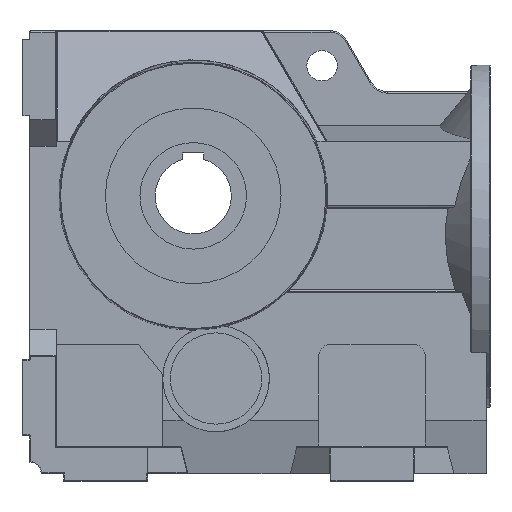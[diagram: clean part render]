
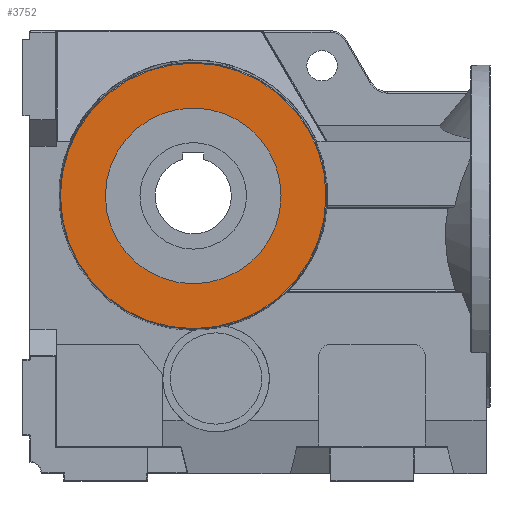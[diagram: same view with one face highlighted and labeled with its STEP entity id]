
A CAD part, front view. The second image highlights one B-rep face of the part: STEP entity #3752.
In plain terms, the highlighted planar face has unit normal (0, -1, 0).
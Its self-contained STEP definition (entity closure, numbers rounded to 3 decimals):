
#3718=CARTESIAN_POINT('',(-254.463,-202.5,375.0));
#3719=VERTEX_POINT('',#3718);
#3720=CARTESIAN_POINT('',(-80.,-202.5,375.0));
#3721=DIRECTION('',(0.0,1.0,0.0));
#3722=DIRECTION('',(1.0,0.0,0.0));
#3723=AXIS2_PLACEMENT_3D('',#3720,#3721,#3722);
#3724=CIRCLE('',#3723,174.463);
#3725=EDGE_CURVE('',#3719,#3719,#3724,.T.);
#3733=CARTESIAN_POINT('',(-80.,-202.5,375.0));
#3734=DIRECTION('',(0.0,-1.0,0.0));
#3735=DIRECTION('',(0.0,0.0,-1.0));
#3736=AXIS2_PLACEMENT_3D('',#3733,#3734,#3735);
#3737=PLANE('',#3736);
#3738=ORIENTED_EDGE('',*,*,#3725,.F.);
#3739=EDGE_LOOP('',(#3738));
#3740=FACE_OUTER_BOUND('',#3739,.T.);
#3741=CARTESIAN_POINT('',(35.429,-202.5,375.0));
#3742=VERTEX_POINT('',#3741);
#3743=CARTESIAN_POINT('',(-80.,-202.5,375.0));
#3744=DIRECTION('',(0.0,1.0,0.0));
#3745=DIRECTION('',(-1.0,0.0,0.0));
#3746=AXIS2_PLACEMENT_3D('',#3743,#3744,#3745);
#3747=CIRCLE('',#3746,115.429);
#3748=EDGE_CURVE('',#3742,#3742,#3747,.T.);
#3749=ORIENTED_EDGE('',*,*,#3748,.T.);
#3750=EDGE_LOOP('',(#3749));
#3751=FACE_BOUND('',#3750,.T.);
#3752=ADVANCED_FACE('',(#3740,#3751),#3737,.T.);
